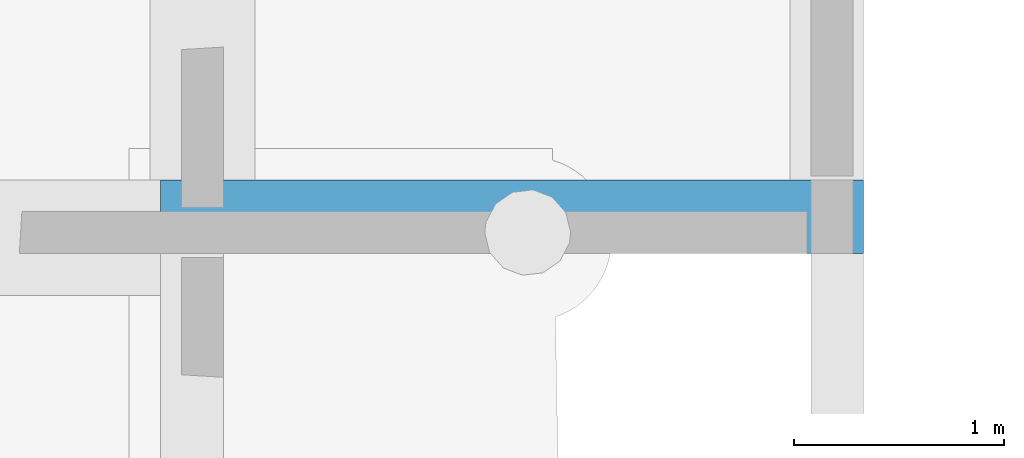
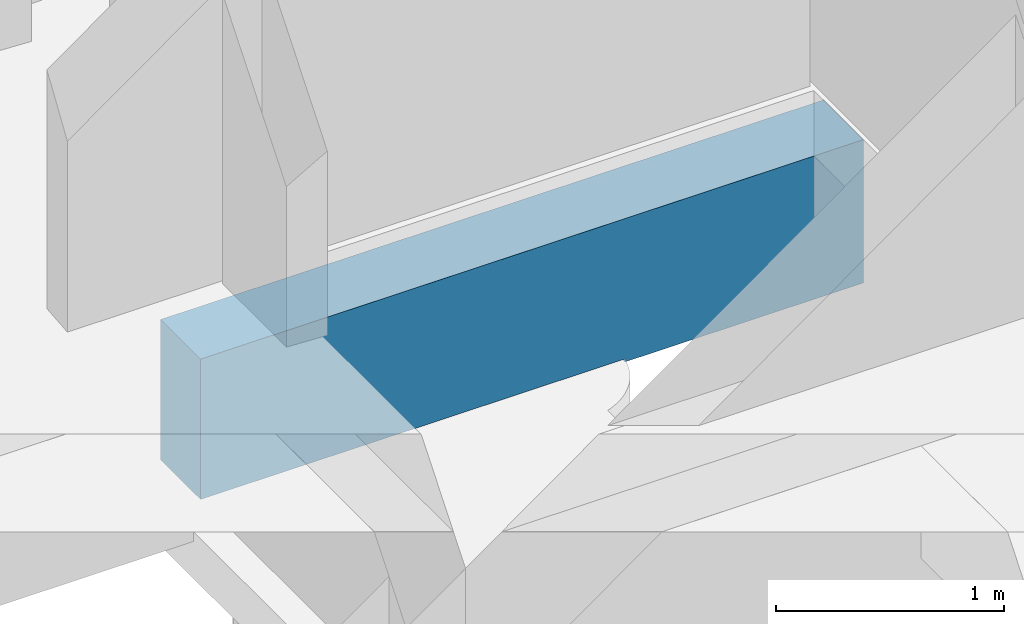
# One storey, part 22 of 26: 1 wall.
"""IFC2X3 building model written with IfcOpenShell, lengths in millimetres."""

from ifc_helpers import new_model, entity, si_unit, converted_unit, derived_unit, direction, frame, origin, place, context, subcontext, project, spatial, faceted_brep, material, type_object, element, save


model = new_model("IFC2X3")

# Units and contexts
model_context = context("Model", 3, precision=0.01, world=origin(), true_north=direction((6.12303176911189e-17, 1.0)))
body_context = subcontext(model_context, "Body", "Model", "MODEL_VIEW")
ifc_project = project(units=[si_unit("LENGTHUNIT", "METRE", prefix="MILLI"), si_unit("AREAUNIT", "SQUARE_METRE"), si_unit("VOLUMEUNIT", "CUBIC_METRE"), converted_unit("PLANEANGLEUNIT", "DEGREE", entity("IfcRatioMeasure", 0.0174532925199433), si_unit("PLANEANGLEUNIT", "RADIAN"), dimensions=[0, 0, 0, 0, 0, 0, 0]), si_unit("MASSUNIT", "GRAM", prefix="KILO"), derived_unit("MASSDENSITYUNIT", [(si_unit("MASSUNIT", "GRAM", prefix="KILO"), 1), (si_unit("LENGTHUNIT", "METRE"), -3)]), si_unit("TIMEUNIT", "SECOND"), si_unit("FREQUENCYUNIT", "HERTZ"), si_unit("THERMODYNAMICTEMPERATUREUNIT", "DEGREE_CELSIUS"), derived_unit("THERMALTRANSMITTANCEUNIT", [(si_unit("MASSUNIT", "GRAM", prefix="KILO"), 1), (si_unit("THERMODYNAMICTEMPERATUREUNIT", "KELVIN"), -1), (si_unit("TIMEUNIT", "SECOND"), -3)]), derived_unit("VOLUMETRICFLOWRATEUNIT", [(si_unit("LENGTHUNIT", "METRE"), 3), (si_unit("TIMEUNIT", "SECOND"), -1)]), si_unit("ELECTRICCURRENTUNIT", "AMPERE"), si_unit("ELECTRICVOLTAGEUNIT", "VOLT"), si_unit("POWERUNIT", "WATT"), si_unit("FORCEUNIT", "NEWTON", prefix="KILO"), si_unit("ILLUMINANCEUNIT", "LUX"), si_unit("LUMINOUSFLUXUNIT", "LUMEN"), si_unit("LUMINOUSINTENSITYUNIT", "CANDELA"), derived_unit("USERDEFINED", [(si_unit("MASSUNIT", "GRAM", prefix="KILO"), -1), (si_unit("LENGTHUNIT", "METRE"), -2), (si_unit("TIMEUNIT", "SECOND"), 3), (si_unit("LUMINOUSFLUXUNIT", "LUMEN"), 1)]), derived_unit("LINEARVELOCITYUNIT", [(si_unit("LENGTHUNIT", "METRE"), 1), (si_unit("TIMEUNIT", "SECOND"), -1)]), si_unit("PRESSUREUNIT", "PASCAL"), derived_unit("USERDEFINED", [(si_unit("LENGTHUNIT", "METRE"), -2), (si_unit("MASSUNIT", "GRAM", prefix="KILO"), 1), (si_unit("TIMEUNIT", "SECOND"), -2)])], contexts=[model_context])

# Site, building, storey
site_placement = place(None, origin())
site = spatial("IfcSite", under=ifc_project, at=site_placement, Name="Default", CompositionType="ELEMENT")
building_placement = place(site_placement, origin())
building = spatial("IfcBuilding", under=site, at=building_placement, Name="niet gebruiken", CompositionType="ELEMENT")
storey_placement = place(building_placement, origin())
storey = spatial("IfcBuildingStorey", under=building, at=storey_placement, Name="00 begane grond", CompositionType="ELEMENT", Elevation=0.0)

# Wall
ifc_material = material(Name="NLRS_f2_beton ihwg")
wall_type = type_object("IfcWallType", Name="Basic Wall:NLRS_16.21_WA_beton ihwg d=350_gen", PredefinedType="NOTDEFINED")
wall_placement = place(storey_placement, frame((160090.0, 50525.0, -1366.0)))
element("IfcWall", 1, at=wall_placement, inside=storey, type_object=wall_type, material=ifc_material, Name="Basic Wall:NLRS_16.21_WA_beton ihwg d=350_gen", ObjectType="Basic Wall:NLRS_16.21_WA_beton ihwg d=350_gen", context=body_context, shape_type="Brep", body=[
    faceted_brep([(0.0, -175.0, 16.0), (300.0, -175.0, 16.0), (2143.70279774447, -175.0, 16.0), (2143.70279774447, -175.0, 0.0), (3100.0, -175.0, 0.0), (3350.0, -175.0, 0.0), (3350.0, -175.0, 766.0), (3100.0, -175.0, 766.0), (300.0, -175.0, 766.0), (0.0, -175.0, 766.0), (3000.0, 175.0, 766.0), (3350.0, 175.0, 766.0), (3350.0, 175.0, 166.0), (3350.0, 175.0, 0.0), (2030.91926123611, 175.0, 0.0), (2030.91926123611, 175.0, 16.0), (0.0, 175.0, 16.0), (0.0, 175.0, 766.0), (450.0, 175.0, 766.0), (2149.75423384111, -111.567126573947, 0.0), (2145.44831658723, -47.9919082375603, 0.0), (2130.8988301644, 14.0456751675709, 0.0), (2106.4902458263, 72.906275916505, 0.0), (2072.86756221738, 127.034498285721, 0.0), (2067.36947975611, 134.284706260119, 16.0), (2097.79644863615, 88.9075203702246, 16.0), (2121.6160332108, 39.7473018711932, 16.0), (2138.36946737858, -12.2444449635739, 16.0), (2147.73291382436, -66.062427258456, 16.0), (2149.52375314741, -120.659285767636, 16.0)], [[[0, 1, 2, 3, 4, 5, 6, 7, 8, 9]], [[10, 11, 12, 13, 14, 15, 16, 17, 18]], [[4, 3, 19, 20, 21, 22, 23, 14, 13, 5]], [[6, 5, 13, 12, 11]], [[7, 6, 11, 10, 18, 17, 9, 8]], [[0, 9, 17, 16]], [[16, 15, 24, 25, 26, 27, 28, 29, 2, 1, 0]], [[25, 24, 23]], [[26, 25, 22]], [[14, 24, 15]], [[23, 24, 14]], [[23, 22, 25]], [[22, 21, 26]], [[28, 27, 20]], [[29, 28, 19]], [[2, 29, 3]], [[20, 27, 21]], [[19, 28, 20]], [[19, 3, 29]], [[26, 21, 27]]]),
])

save(model, "model.ifc")
